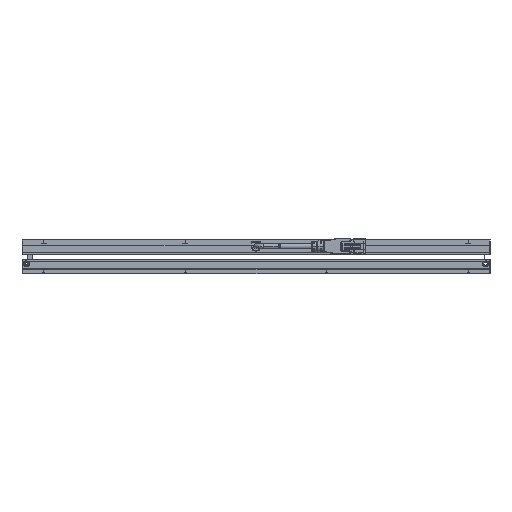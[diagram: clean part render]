
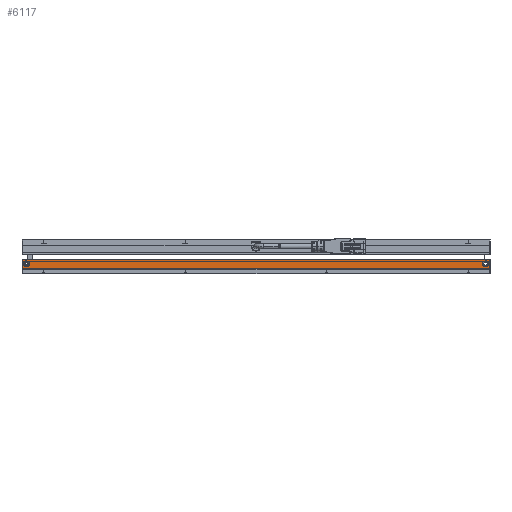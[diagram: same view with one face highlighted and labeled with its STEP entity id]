
A CAD part, left-side view. The second image highlights one B-rep face of the part: STEP entity #6117.
In plain terms, the highlighted planar face has unit normal (-1, 0, 0).
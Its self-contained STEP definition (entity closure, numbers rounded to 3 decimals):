
#53 = DIRECTION ( 'NONE',  ( 0., 0., -1. ) ) ;
#84 = EDGE_LOOP ( 'NONE', ( #4103, #877 ) ) ;
#96 = CARTESIAN_POINT ( 'NONE',  ( -257., -156.5, 0. ) ) ;
#318 = DIRECTION ( 'NONE',  ( 0., 0., -1. ) ) ;
#367 = CARTESIAN_POINT ( 'NONE',  ( -257., 156.5, -15.5 ) ) ;
#468 = LINE ( 'NONE', #11127, #9899 ) ;
#722 = FACE_BOUND ( 'NONE', #84, .T. ) ;
#749 = DIRECTION ( 'NONE',  ( 1., 0., 0. ) ) ;
#877 = ORIENTED_EDGE ( 'NONE', *, *, #9454, .T. ) ;
#1083 = EDGE_CURVE ( 'NONE', #2940, #9221, #2542, .T. ) ;
#1546 = EDGE_CURVE ( 'NONE', #12348, #10639, #1602, .T. ) ;
#1602 = CIRCLE ( 'NONE', #5503, 2. ) ;
#1613 = AXIS2_PLACEMENT_3D ( 'NONE', #11437, #12533, #4707 ) ;
#1772 = DIRECTION ( 'NONE',  ( 1., 0., 0. ) ) ;
#2270 = DIRECTION ( 'NONE',  ( 0., 0., -1. ) ) ;
#2330 = CARTESIAN_POINT ( 'NONE',  ( -257., 156.5, -9.85 ) ) ;
#2351 = CARTESIAN_POINT ( 'NONE',  ( -257., 154., -14.5 ) ) ;
#2395 = ORIENTED_EDGE ( 'NONE', *, *, #10079, .T. ) ;
#2497 = VECTOR ( 'NONE', #53, 1000. ) ;
#2542 = LINE ( 'NONE', #10116, #9071 ) ;
#2940 = VERTEX_POINT ( 'NONE', #2330 ) ;
#3067 = CIRCLE ( 'NONE', #1613, 2. ) ;
#3183 = CARTESIAN_POINT ( 'NONE',  ( -257., -156.5, -9.85 ) ) ;
#3801 = AXIS2_PLACEMENT_3D ( 'NONE', #4862, #12488, #9682 ) ;
#3841 = CARTESIAN_POINT ( 'NONE',  ( -257., -156.5, -15.5 ) ) ;
#4077 = FACE_BOUND ( 'NONE', #6977, .T. ) ;
#4103 = ORIENTED_EDGE ( 'NONE', *, *, #4427, .T. ) ;
#4126 = VERTEX_POINT ( 'NONE', #6740 ) ;
#4272 = DIRECTION ( 'NONE',  ( 1., 0., 0. ) ) ;
#4425 = CARTESIAN_POINT ( 'NONE',  ( -257., -154., -10.5 ) ) ;
#4427 = EDGE_CURVE ( 'NONE', #4126, #8539, #3067, .T. ) ;
#4672 = EDGE_CURVE ( 'NONE', #9221, #12220, #468, .T. ) ;
#4707 = DIRECTION ( 'NONE',  ( 0., 0., -1. ) ) ;
#4862 = CARTESIAN_POINT ( 'NONE',  ( -257., 154., -12.5 ) ) ;
#4879 = AXIS2_PLACEMENT_3D ( 'NONE', #9398, #749, #5689 ) ;
#4922 = AXIS2_PLACEMENT_3D ( 'NONE', #9426, #1772, #10528 ) ;
#4953 = VECTOR ( 'NONE', #7032, 1000. ) ;
#5503 = AXIS2_PLACEMENT_3D ( 'NONE', #8072, #4272, #318 ) ;
#5685 = CIRCLE ( 'NONE', #4922, 2. ) ;
#5689 = DIRECTION ( 'NONE',  ( 0., 0., 1. ) ) ;
#6117 = ADVANCED_FACE ( 'NONE', ( #4077, #722, #8330 ), #11516, .F. ) ;
#6505 = LINE ( 'NONE', #12024, #4953 ) ;
#6740 = CARTESIAN_POINT ( 'NONE',  ( -257., -154., -14.5 ) ) ;
#6961 = EDGE_CURVE ( 'NONE', #2940, #11992, #6505, .T. ) ;
#6977 = EDGE_LOOP ( 'NONE', ( #10777, #2395 ) ) ;
#7032 = DIRECTION ( 'NONE',  ( 0., -1., 0. ) ) ;
#7508 = CIRCLE ( 'NONE', #3801, 2. ) ;
#8072 = CARTESIAN_POINT ( 'NONE',  ( -257., 154., -12.5 ) ) ;
#8272 = DIRECTION ( 'NONE',  ( 0., -1., 0. ) ) ;
#8330 = FACE_OUTER_BOUND ( 'NONE', #9176, .T. ) ;
#8469 = ORIENTED_EDGE ( 'NONE', *, *, #1083, .T. ) ;
#8539 = VERTEX_POINT ( 'NONE', #4425 ) ;
#9071 = VECTOR ( 'NONE', #2270, 1000. ) ;
#9176 = EDGE_LOOP ( 'NONE', ( #9752, #8469, #11232, #12077 ) ) ;
#9221 = VERTEX_POINT ( 'NONE', #367 ) ;
#9398 = CARTESIAN_POINT ( 'NONE',  ( -257., 157., -15.5 ) ) ;
#9426 = CARTESIAN_POINT ( 'NONE',  ( -257., -154., -12.5 ) ) ;
#9454 = EDGE_CURVE ( 'NONE', #8539, #4126, #5685, .T. ) ;
#9603 = EDGE_CURVE ( 'NONE', #11992, #12220, #11607, .T. ) ;
#9622 = CARTESIAN_POINT ( 'NONE',  ( -257., 154., -10.5 ) ) ;
#9682 = DIRECTION ( 'NONE',  ( 0., 0., -1. ) ) ;
#9752 = ORIENTED_EDGE ( 'NONE', *, *, #6961, .F. ) ;
#9899 = VECTOR ( 'NONE', #8272, 1000. ) ;
#10079 = EDGE_CURVE ( 'NONE', #10639, #12348, #7508, .T. ) ;
#10116 = CARTESIAN_POINT ( 'NONE',  ( -257., 156.5, 0. ) ) ;
#10528 = DIRECTION ( 'NONE',  ( 0., 0., -1. ) ) ;
#10639 = VERTEX_POINT ( 'NONE', #9622 ) ;
#10777 = ORIENTED_EDGE ( 'NONE', *, *, #1546, .T. ) ;
#11127 = CARTESIAN_POINT ( 'NONE',  ( -257., 157., -15.5 ) ) ;
#11232 = ORIENTED_EDGE ( 'NONE', *, *, #4672, .T. ) ;
#11437 = CARTESIAN_POINT ( 'NONE',  ( -257., -154., -12.5 ) ) ;
#11516 = PLANE ( 'NONE',  #4879 ) ;
#11607 = LINE ( 'NONE', #96, #2497 ) ;
#11992 = VERTEX_POINT ( 'NONE', #3183 ) ;
#12024 = CARTESIAN_POINT ( 'NONE',  ( -257., 157., -9.85 ) ) ;
#12077 = ORIENTED_EDGE ( 'NONE', *, *, #9603, .F. ) ;
#12220 = VERTEX_POINT ( 'NONE', #3841 ) ;
#12348 = VERTEX_POINT ( 'NONE', #2351 ) ;
#12488 = DIRECTION ( 'NONE',  ( 1., 0., 0. ) ) ;
#12533 = DIRECTION ( 'NONE',  ( 1., 0., 0. ) ) ;
